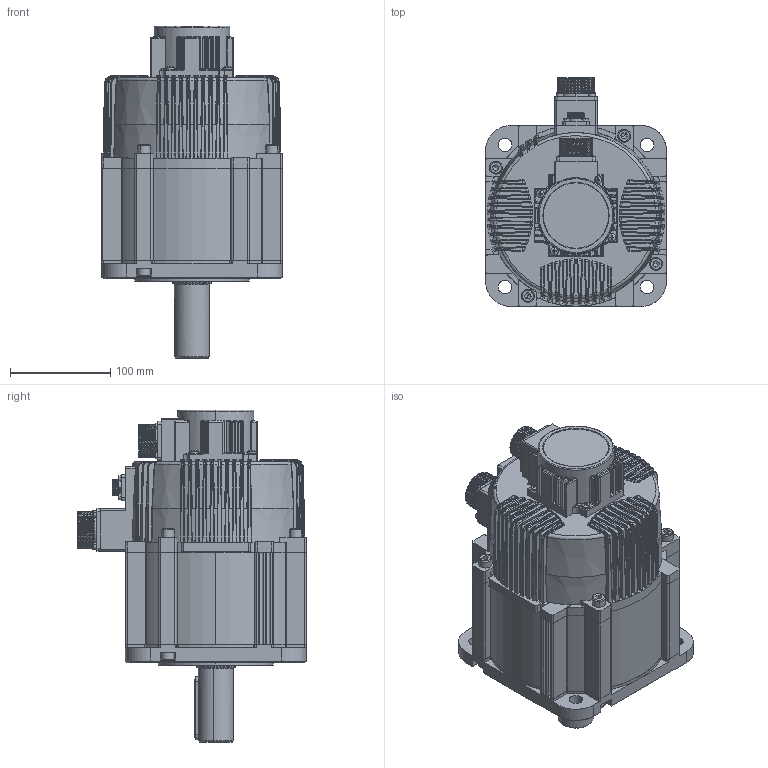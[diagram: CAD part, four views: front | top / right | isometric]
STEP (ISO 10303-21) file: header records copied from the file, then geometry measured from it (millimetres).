
FILE_DESCRIPTION (( 'STEP AP203' ), '1' );
FILE_NAME ('WB180ST-Z1M18615.STEP', '2022-09-06T10:28:06', ( '' ), ( '' ), 'SwSTEP 2.0', 'SolidWorks 2018', '' );
FILE_SCHEMA (( 'CONFIG_CONTROL_DESIGN' ));
Length unit declared in the file: millimetre
Products named in the file (1): WB180ST-Z1M18615
Bounding box: 180 x 227.5 x 330.4 mm (x, y, z)
Volume: 1924948.6 mm3; surface area: 563547.3 mm2
Topology: 35 solids, 35 shells, 3087 faces, 7831 edges, 4796 vertices
Faces by surface type: cylinder 977, plane 923, bspline 611, torus 257, cone 242, sphere 77
Entity records: 134750 total; most frequent: CARTESIAN_POINT 68104, ORIENTED_EDGE 15320, DIRECTION 12020, EDGE_CURVE 7660, AXIS2_PLACEMENT_3D 4929, VERTEX_POINT 4781, EDGE_LOOP 3299, ADVANCED_FACE 3087
